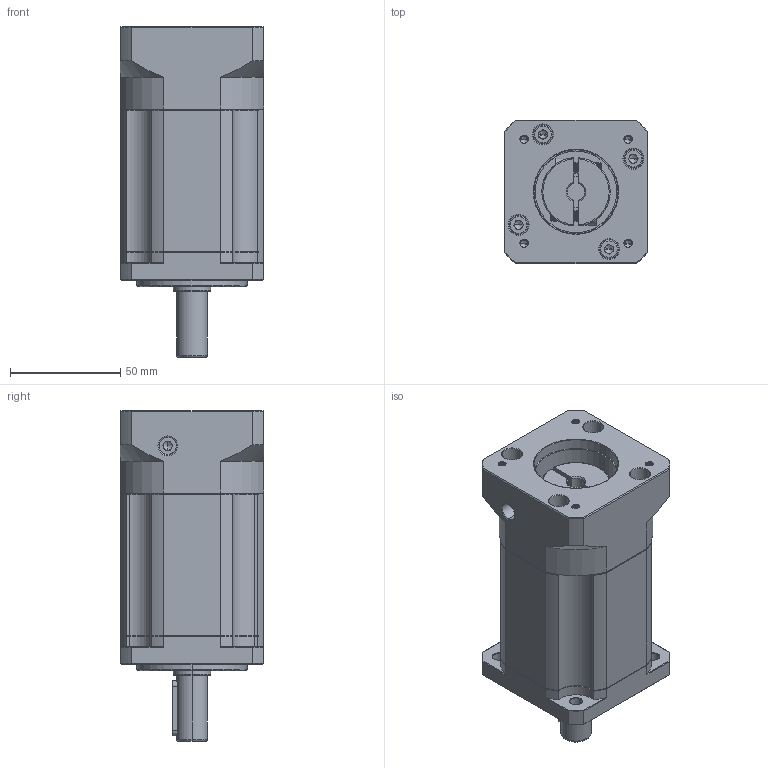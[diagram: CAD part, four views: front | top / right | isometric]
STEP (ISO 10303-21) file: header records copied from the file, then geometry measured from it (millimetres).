
FILE_DESCRIPTION (( 'STEP AP214' ), '1' );
FILE_NAME ('ZB060-D14-L3-P2-8-38.1-47.14X47.14-M4.step', '2023-08-16T07:03:57', ( '' ), ( '' ), 'SwSTEP 2.0', 'SolidWorks 2016', '' );
FILE_SCHEMA (( 'AUTOMOTIVE_DESIGN' ));
Length unit declared in the file: millimetre
Products named in the file (1): ZB060-D14-L3-P2-8-38.1-47.14X47.14-M4
Bounding box: 65 x 65 x 150 mm (x, y, z)
Volume: 394917 mm3; surface area: 62264 mm2
Topology: 6 solids, 6 shells, 2154 faces, 5800 edges, 3734 vertices
Faces by surface type: plane 1059, bspline 397, cylinder 381, cone 281, torus 36
Entity records: 114774 total; most frequent: CARTESIAN_POINT 40157, ORIENTED_EDGE 11540, DIRECTION 9092, EDGE_CURVE 5770, VERTEX_POINT 3734, VECTOR 3634, LINE 3634, AXIS2_PLACEMENT_3D 2729
